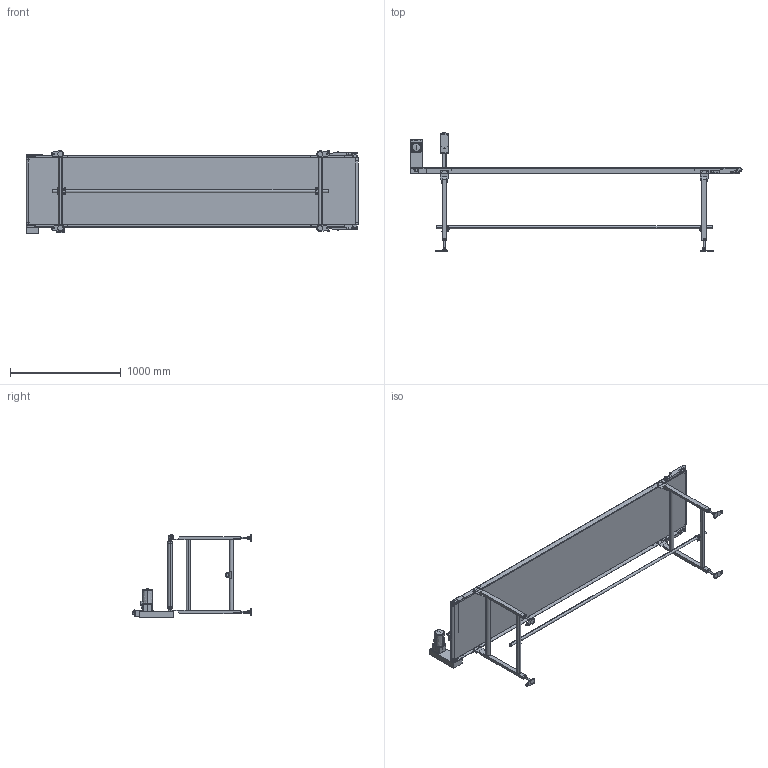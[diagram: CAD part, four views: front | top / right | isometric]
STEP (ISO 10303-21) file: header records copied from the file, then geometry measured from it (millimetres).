
FILE_DESCRIPTION( (''), '2;1');
FILE_NAME ('FB20-OD-306-600-300-R.-K-100.stp','2025-01-30T16:50:31',(''),(''),'spGate 20.6.2 (****-****-****-****)','','');
FILE_SCHEMA (('AUTOMOTIVE_DESIGN'));
Length unit declared in the file: millimetre
Products named in the file (35): NewModel; TEMP_X_T-prt0; TEMP_X_T-prt1; TEMP_X_T-prt2; TEMP_X_T-prt3; TEMP_X_T-prt4; TEMP_X_T-prt5; TEMP_X_T-prt6; TEMP_X_T-prt7; TEMP_X_T-prt8; TEMP_X_T-prt9; TEMP_X_T-prt10; TEMP_X_T-prt11; TEMP_X_T-prt12; TEMP_X_T-prt13; TEMP_X_T-prt14; TEMP_X_T-prt15; TEMP_X_T-prt16; TEMP_X_T-prt17; TEMP_X_T-prt18; TEMP_X_T-prt19; TEMP_X_T-prt20; TEMP_X_T-prt21; TEMP_X_T-prt22; TEMP_X_T-prt23; TEMP_X_T-prt24; TEMP_X_T-prt25; TEMP_X_T-prt26; TEMP_X_T-prt27; TEMP_X_T-prt28; TEMP_X_T-prt29; TEMP_X_T-prt30; TEMP_X_T-prt31; TEMP_X_T-prt32; TEMP_X_T-prt33
Assembly tree (34 placements, depth 2):
  NewModel
    TEMP_X_T-prt0
    TEMP_X_T-prt1
    TEMP_X_T-prt2
    TEMP_X_T-prt3
    TEMP_X_T-prt4
    TEMP_X_T-prt5
    TEMP_X_T-prt6
    TEMP_X_T-prt7
    TEMP_X_T-prt8
    TEMP_X_T-prt9
    TEMP_X_T-prt10
    TEMP_X_T-prt11
    TEMP_X_T-prt12
    TEMP_X_T-prt13
    TEMP_X_T-prt14
    TEMP_X_T-prt15
    TEMP_X_T-prt16
    TEMP_X_T-prt17
    TEMP_X_T-prt18
    TEMP_X_T-prt19
    TEMP_X_T-prt20
    TEMP_X_T-prt21
    TEMP_X_T-prt22
    TEMP_X_T-prt23
    TEMP_X_T-prt24
    TEMP_X_T-prt25
    TEMP_X_T-prt26
    TEMP_X_T-prt27
    TEMP_X_T-prt28
    TEMP_X_T-prt29
    TEMP_X_T-prt30
    TEMP_X_T-prt31
    TEMP_X_T-prt32
    TEMP_X_T-prt33
Bounding box: 3003.3 x 1069.5 x 750.5 mm (x, y, z)
Volume: 24463005.7 mm3; surface area: 13557940.3 mm2
Topology: 34 solids, 34 shells, 1178 faces, 2943 edges, 1936 vertices
Faces by surface type: plane 798, cylinder 332, bspline 44, sphere 4
Entity records: 61198 total; most frequent: CARTESIAN_POINT 8279, ORIENTED_EDGE 5874, DIRECTION 5775, COLOUR_RGB 4149, PRESENTATION_STYLE_ASSIGNMENT 4149, STYLED_ITEM 4149, EDGE_CURVE 2937, DRAUGHTING_PRE_DEFINED_CURVE_FONT 2937
